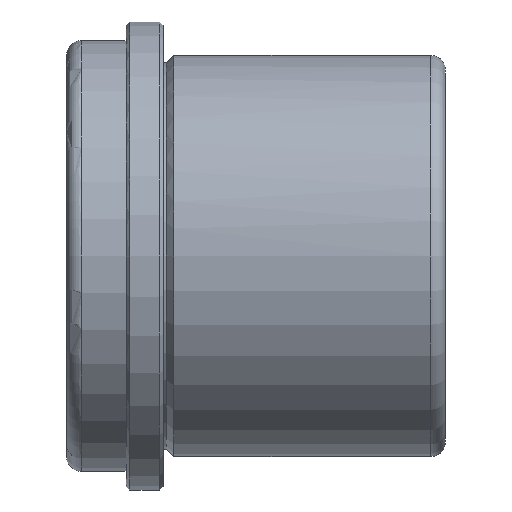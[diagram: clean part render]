
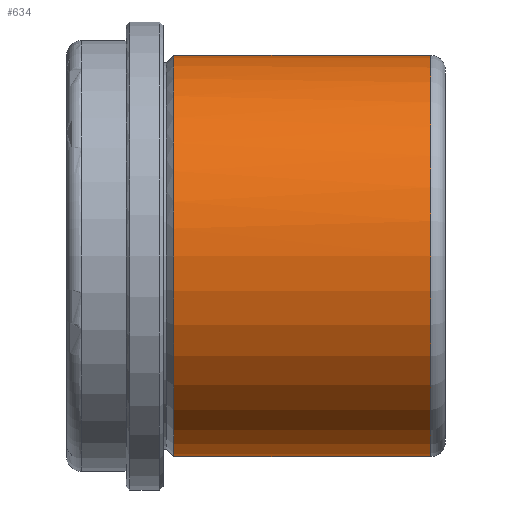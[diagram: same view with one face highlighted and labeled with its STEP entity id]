
A CAD part, front view. The second image highlights one B-rep face of the part: STEP entity #634.
In plain terms, the highlighted cylindrical face has radius 27 mm (diameter 54 mm), a partial arc.
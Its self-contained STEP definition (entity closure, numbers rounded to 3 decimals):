
#413=CARTESIAN_POINT('Line Origine',(38.,0.,27.)) ;
#417=CARTESIAN_POINT('Vertex',(36.,0.,27.)) ;
#419=CARTESIAN_POINT('Vertex',(1.414,0.,27.)) ;
#433=CARTESIAN_POINT('Vertex',(36.,0.,-27.)) ;
#436=CARTESIAN_POINT('Line Origine',(38.,0.,-27.)) ;
#440=CARTESIAN_POINT('Vertex',(1.414,0.,-27.)) ;
#594=CARTESIAN_POINT('Axis2P3D Location',(38.,0.,0.)) ;
#599=CARTESIAN_POINT('Axis2P3D Location',(36.,0.,0.)) ;
#603=CARTESIAN_POINT('Vertex',(36.,-27.,0.)) ;
#606=CARTESIAN_POINT('Axis2P3D Location',(36.,0.,0.)) ;
#612=CARTESIAN_POINT('Control Point',(1.414,0.,27.)) ;
#613=CARTESIAN_POINT('Control Point',(1.414,-8.482,27.)) ;
#614=CARTESIAN_POINT('Control Point',(1.414,-16.973,23.679)) ;
#615=CARTESIAN_POINT('Control Point',(1.414,-23.679,16.973)) ;
#616=CARTESIAN_POINT('Control Point',(1.414,-27.,8.482)) ;
#617=CARTESIAN_POINT('Control Point',(1.414,-27.,0.)) ;
#618=CARTESIAN_POINT('Vertex',(1.414,-27.,0.)) ;
#621=CARTESIAN_POINT('Axis2P3D Location',(1.414,0.,0.)) ;
#414=DIRECTION('Vector Direction',(-1.,0.,0.)) ;
#437=DIRECTION('Vector Direction',(-1.,0.,0.)) ;
#595=DIRECTION('Axis2P3D Direction',(-1.,-0.,-0.)) ;
#596=DIRECTION('Axis2P3D XDirection',(0.,0.,-1.)) ;
#600=DIRECTION('Axis2P3D Direction',(-1.,-0.,-0.)) ;
#607=DIRECTION('Axis2P3D Direction',(-1.,-0.,-0.)) ;
#622=DIRECTION('Axis2P3D Direction',(-1.,-0.,-0.)) ;
#597=AXIS2_PLACEMENT_3D('Cylinder Axis2P3D',#594,#595,#596) ;
#601=AXIS2_PLACEMENT_3D('Circle Axis2P3D',#599,#600,$) ;
#608=AXIS2_PLACEMENT_3D('Circle Axis2P3D',#606,#607,$) ;
#623=AXIS2_PLACEMENT_3D('Circle Axis2P3D',#621,#622,$) ;
#627=ORIENTED_EDGE('',*,*,#442,.T.) ;
#628=ORIENTED_EDGE('',*,*,#605,.F.) ;
#629=ORIENTED_EDGE('',*,*,#610,.F.) ;
#630=ORIENTED_EDGE('',*,*,#421,.T.) ;
#631=ORIENTED_EDGE('',*,*,#620,.T.) ;
#632=ORIENTED_EDGE('',*,*,#625,.T.) ;
#415=VECTOR('Line Direction',#414,1.) ;
#438=VECTOR('Line Direction',#437,1.) ;
#634=ADVANCED_FACE('CF 631 42 x 51',(#633),#598,.T.) ;
#611=B_SPLINE_CURVE_WITH_KNOTS('',5,(#612,#613,#614,#615,#616,#617),.UNSPECIFIED.,.F.,.U.,(6,6),(-21.206,21.206),.UNSPECIFIED.) ;
#602=CIRCLE('generated circle',#601,27.) ;
#609=CIRCLE('generated circle',#608,27.) ;
#624=CIRCLE('generated circle',#623,27.) ;
#598=CYLINDRICAL_SURFACE('generated cylinder',#597,27.) ;
#421=EDGE_CURVE('',#418,#420,#416,.T.) ;
#442=EDGE_CURVE('',#441,#434,#439,.F.) ;
#605=EDGE_CURVE('',#604,#434,#602,.F.) ;
#610=EDGE_CURVE('',#418,#604,#609,.F.) ;
#620=EDGE_CURVE('',#420,#619,#611,.T.) ;
#625=EDGE_CURVE('',#619,#441,#624,.F.) ;
#626=EDGE_LOOP('',(#627,#628,#629,#630,#631,#632)) ;
#633=FACE_OUTER_BOUND('',#626,.T.) ;
#416=LINE('Line',#413,#415) ;
#439=LINE('Line',#436,#438) ;
#418=VERTEX_POINT('',#417) ;
#420=VERTEX_POINT('',#419) ;
#434=VERTEX_POINT('',#433) ;
#441=VERTEX_POINT('',#440) ;
#604=VERTEX_POINT('',#603) ;
#619=VERTEX_POINT('',#618) ;
